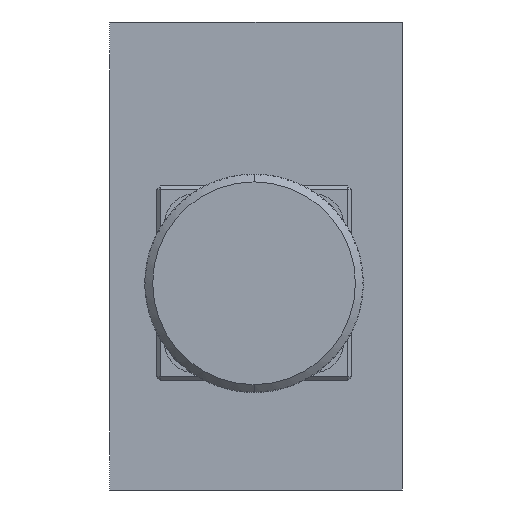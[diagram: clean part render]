
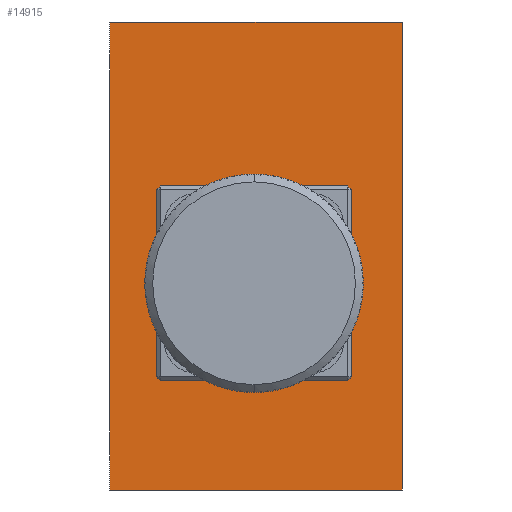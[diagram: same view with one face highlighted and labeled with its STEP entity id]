
A CAD part, left-side view. The second image highlights one B-rep face of the part: STEP entity #14915.
In plain terms, the highlighted planar face has unit normal (-1, 0, 0).
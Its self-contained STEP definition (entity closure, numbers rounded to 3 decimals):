
#378 = CIRCLE ( 'NONE', #5245, 4.25 ) ;
#1019 = DIRECTION ( 'NONE',  ( 0., -1., 0. ) ) ;
#1792 = FACE_OUTER_BOUND ( 'NONE', #5608, .T. ) ;
#2604 = VECTOR ( 'NONE', #7464, 1000. ) ;
#3421 = CARTESIAN_POINT ( 'NONE',  ( 0., 7.75, -13. ) ) ;
#3465 = LINE ( 'NONE', #24977, #13979 ) ;
#4185 = EDGE_CURVE ( 'NONE', #25097, #27384, #3465, .T. ) ;
#4330 = AXIS2_PLACEMENT_3D ( 'NONE', #4678, #19540, #6762 ) ;
#4510 = VERTEX_POINT ( 'NONE', #13128 ) ;
#4678 = CARTESIAN_POINT ( 'NONE',  ( 0., 0.25, -3.5 ) ) ;
#4893 = VERTEX_POINT ( 'NONE', #7827 ) ;
#4972 = VERTEX_POINT ( 'NONE', #11096 ) ;
#5245 = AXIS2_PLACEMENT_3D ( 'NONE', #18726, #5958, #20851 ) ;
#5252 = VECTOR ( 'NONE', #25079, 1000. ) ;
#5608 = EDGE_LOOP ( 'NONE', ( #20098, #21467, #22175, #23240 ) ) ;
#5958 = DIRECTION ( 'NONE',  ( -1., 0., 0. ) ) ;
#6029 = ORIENTED_EDGE ( 'NONE', *, *, #22317, .F. ) ;
#6751 = ORIENTED_EDGE ( 'NONE', *, *, #19599, .F. ) ;
#6762 = DIRECTION ( 'NONE',  ( 0., 0., 1. ) ) ;
#6828 = DIRECTION ( 'NONE',  ( -1., 0., 0. ) ) ;
#7097 = DIRECTION ( 'NONE',  ( -1., 0., 0. ) ) ;
#7295 = FACE_BOUND ( 'NONE', #19704, .T. ) ;
#7464 = DIRECTION ( 'NONE',  ( 0., 0., -1. ) ) ;
#7491 = EDGE_CURVE ( 'NONE', #4972, #27213, #12866, .T. ) ;
#7765 = CIRCLE ( 'NONE', #12858, 2. ) ;
#7827 = CARTESIAN_POINT ( 'NONE',  ( 0., 0.25, -7.75 ) ) ;
#8302 = EDGE_CURVE ( 'NONE', #27384, #15099, #25122, .T. ) ;
#9635 = CIRCLE ( 'NONE', #20467, 2. ) ;
#9724 = CARTESIAN_POINT ( 'NONE',  ( 0., 7.75, -11. ) ) ;
#9884 = AXIS2_PLACEMENT_3D ( 'NONE', #25162, #12392, #27270 ) ;
#10019 = EDGE_CURVE ( 'NONE', #27213, #4972, #10570, .T. ) ;
#10468 = CARTESIAN_POINT ( 'NONE',  ( 0., -7.25, 4. ) ) ;
#10530 = CARTESIAN_POINT ( 'NONE',  ( 0., 18.75, 30. ) ) ;
#10570 = CIRCLE ( 'NONE', #9884, 2. ) ;
#10848 = VECTOR ( 'NONE', #27190, 1000. ) ;
#10889 = LINE ( 'NONE', #23048, #5252 ) ;
#11096 = CARTESIAN_POINT ( 'NONE',  ( 0., 7.75, -9. ) ) ;
#11873 = DIRECTION ( 'NONE',  ( 0., 0., 1. ) ) ;
#12313 = CARTESIAN_POINT ( 'NONE',  ( 0., -18.75, -30. ) ) ;
#12392 = DIRECTION ( 'NONE',  ( -1., 0., 0. ) ) ;
#12604 = DIRECTION ( 'NONE',  ( 0., 0., 1. ) ) ;
#12858 = AXIS2_PLACEMENT_3D ( 'NONE', #19876, #7097, #21996 ) ;
#12866 = CIRCLE ( 'NONE', #20884, 2. ) ;
#13128 = CARTESIAN_POINT ( 'NONE',  ( 0., 18.75, -30. ) ) ;
#13814 = EDGE_CURVE ( 'NONE', #27305, #19843, #7765, .T. ) ;
#13979 = VECTOR ( 'NONE', #1019, 1000. ) ;
#14895 = CARTESIAN_POINT ( 'NONE',  ( 0., 0.25, 0.75 ) ) ;
#14915 = ADVANCED_FACE ( 'NONE', ( #23655, #17991, #1792, #7295 ), #23792, .T. ) ;
#15099 = VERTEX_POINT ( 'NONE', #15939 ) ;
#15916 = ORIENTED_EDGE ( 'NONE', *, *, #13814, .F. ) ;
#15939 = CARTESIAN_POINT ( 'NONE',  ( 0., -18.75, -30. ) ) ;
#16157 = EDGE_CURVE ( 'NONE', #19843, #27305, #9635, .T. ) ;
#17255 = ORIENTED_EDGE ( 'NONE', *, *, #16157, .F. ) ;
#17374 = EDGE_LOOP ( 'NONE', ( #15916, #17255 ) ) ;
#17957 = ORIENTED_EDGE ( 'NONE', *, *, #7491, .F. ) ;
#17991 = FACE_BOUND ( 'NONE', #23339, .T. ) ;
#18571 = CARTESIAN_POINT ( 'NONE',  ( 0., -9.003, 4.964 ) ) ;
#18726 = CARTESIAN_POINT ( 'NONE',  ( 0., 0.25, -3.5 ) ) ;
#18845 = CARTESIAN_POINT ( 'NONE',  ( 0., -18.75, 30. ) ) ;
#19080 = ORIENTED_EDGE ( 'NONE', *, *, #10019, .F. ) ;
#19540 = DIRECTION ( 'NONE',  ( -1., 0., 0. ) ) ;
#19599 = EDGE_CURVE ( 'NONE', #4893, #20513, #20466, .T. ) ;
#19604 = CARTESIAN_POINT ( 'NONE',  ( 0., 18.75, -30. ) ) ;
#19704 = EDGE_LOOP ( 'NONE', ( #6029, #6751 ) ) ;
#19843 = VERTEX_POINT ( 'NONE', #24529 ) ;
#19876 = CARTESIAN_POINT ( 'NONE',  ( 0., -7.25, 4. ) ) ;
#20098 = ORIENTED_EDGE ( 'NONE', *, *, #23479, .F. ) ;
#20171 = CARTESIAN_POINT ( 'NONE',  ( 0., -18.75, 30. ) ) ;
#20466 = CIRCLE ( 'NONE', #4330, 4.25 ) ;
#20467 = AXIS2_PLACEMENT_3D ( 'NONE', #10468, #25371, #12604 ) ;
#20513 = VERTEX_POINT ( 'NONE', #14895 ) ;
#20851 = DIRECTION ( 'NONE',  ( 0., 0., 1. ) ) ;
#20884 = AXIS2_PLACEMENT_3D ( 'NONE', #9724, #24638, #11873 ) ;
#21464 = AXIS2_PLACEMENT_3D ( 'NONE', #19604, #6828, #21716 ) ;
#21467 = ORIENTED_EDGE ( 'NONE', *, *, #8302, .F. ) ;
#21716 = DIRECTION ( 'NONE',  ( 0., 0., 1. ) ) ;
#21947 = EDGE_CURVE ( 'NONE', #4510, #25097, #10889, .T. ) ;
#21996 = DIRECTION ( 'NONE',  ( 0., 0., 1. ) ) ;
#22175 = ORIENTED_EDGE ( 'NONE', *, *, #4185, .F. ) ;
#22177 = LINE ( 'NONE', #12313, #10848 ) ;
#22317 = EDGE_CURVE ( 'NONE', #20513, #4893, #378, .T. ) ;
#23048 = CARTESIAN_POINT ( 'NONE',  ( 0., 18.75, 30. ) ) ;
#23240 = ORIENTED_EDGE ( 'NONE', *, *, #21947, .F. ) ;
#23339 = EDGE_LOOP ( 'NONE', ( #17957, #19080 ) ) ;
#23479 = EDGE_CURVE ( 'NONE', #15099, #4510, #22177, .T. ) ;
#23655 = FACE_BOUND ( 'NONE', #17374, .T. ) ;
#23792 = PLANE ( 'NONE',  #21464 ) ;
#24529 = CARTESIAN_POINT ( 'NONE',  ( 0., -5.497, 3.036 ) ) ;
#24638 = DIRECTION ( 'NONE',  ( -1., 0., 0. ) ) ;
#24977 = CARTESIAN_POINT ( 'NONE',  ( 0., -18.75, 30. ) ) ;
#25079 = DIRECTION ( 'NONE',  ( 0., 0., 1. ) ) ;
#25097 = VERTEX_POINT ( 'NONE', #10530 ) ;
#25122 = LINE ( 'NONE', #20171, #2604 ) ;
#25162 = CARTESIAN_POINT ( 'NONE',  ( 0., 7.75, -11. ) ) ;
#25371 = DIRECTION ( 'NONE',  ( -1., 0., 0. ) ) ;
#27190 = DIRECTION ( 'NONE',  ( 0., 1., 0. ) ) ;
#27213 = VERTEX_POINT ( 'NONE', #3421 ) ;
#27270 = DIRECTION ( 'NONE',  ( 0., 0., 1. ) ) ;
#27305 = VERTEX_POINT ( 'NONE', #18571 ) ;
#27384 = VERTEX_POINT ( 'NONE', #18845 ) ;
